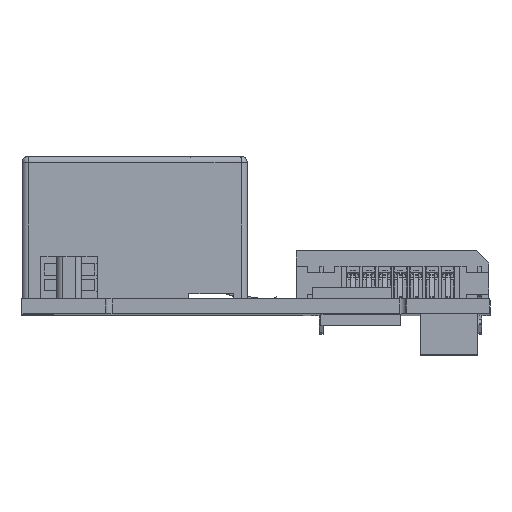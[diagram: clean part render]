
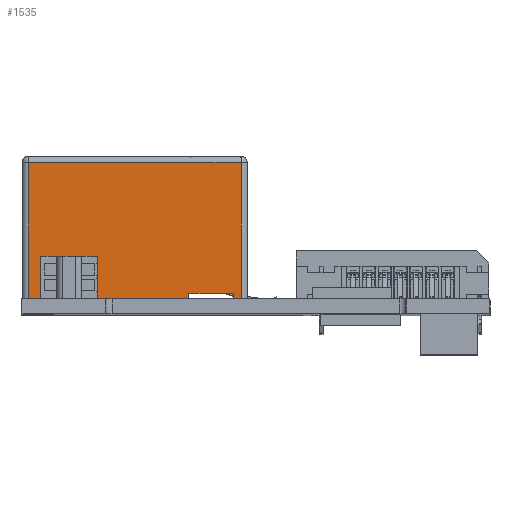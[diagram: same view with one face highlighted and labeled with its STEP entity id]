
A CAD part, top view. The second image highlights one B-rep face of the part: STEP entity #1535.
In plain terms, the highlighted planar face has unit normal (0, 0, 1).
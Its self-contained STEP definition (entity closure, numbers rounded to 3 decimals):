
#1535=ADVANCED_FACE('',(#4398),#26186,.T.);
#4398=FACE_OUTER_BOUND('',#7554,.F.);
#7554=EDGE_LOOP('',(#16623,#16624,#16625,#16626,#16627,#16628,#16629,#16630));
#16623=ORIENTED_EDGE('',*,*,#28491,.F.);
#16624=ORIENTED_EDGE('',*,*,#32687,.T.);
#16625=ORIENTED_EDGE('',*,*,#32688,.T.);
#16626=ORIENTED_EDGE('',*,*,#32689,.T.);
#16627=ORIENTED_EDGE('',*,*,#28490,.F.);
#16628=ORIENTED_EDGE('',*,*,#32686,.T.);
#16629=ORIENTED_EDGE('',*,*,#31792,.T.);
#16630=ORIENTED_EDGE('',*,*,#31790,.F.);
#26186=PLANE('',#57724);
#28490=EDGE_CURVE('',#55871,#55870,#36403,.T.);
#28491=EDGE_CURVE('',#55869,#55878,#36404,.T.);
#31790=EDGE_CURVE('',#55878,#53720,#39303,.T.);
#31792=EDGE_CURVE('',#53710,#53720,#39305,.T.);
#32686=EDGE_CURVE('',#55871,#53710,#40050,.T.);
#32687=EDGE_CURVE('',#55869,#53115,#40051,.T.);
#32688=EDGE_CURVE('',#53115,#53114,#40052,.T.);
#32689=EDGE_CURVE('',#53114,#55870,#40053,.T.);
#36403=LINE('',#78735,#43702);
#36404=LINE('',#78736,#43703);
#39303=LINE('',#82107,#46602);
#39305=LINE('',#82109,#46604);
#40050=LINE('',#83003,#47349);
#40051=LINE('',#83004,#47350);
#40052=LINE('',#83005,#47351);
#40053=LINE('',#83006,#47352);
#43702=VECTOR('',#59493,0.605);
#43703=VECTOR('',#59494,12.9);
#46602=VECTOR('',#63175,0.5);
#46604=VECTOR('',#63177,3.595);
#47349=VECTOR('',#64220,0.5);
#47350=VECTOR('',#64221,11.);
#47351=VECTOR('',#64222,17.1);
#47352=VECTOR('',#64223,11.);
#53114=VERTEX_POINT('',#75830);
#53115=VERTEX_POINT('',#75831);
#53710=VERTEX_POINT('',#76426);
#53720=VERTEX_POINT('',#76436);
#55869=VERTEX_POINT('',#78585);
#55870=VERTEX_POINT('',#78586);
#55871=VERTEX_POINT('',#78587);
#55878=VERTEX_POINT('',#78594);
#57724=AXIS2_PLACEMENT_3D('',#87881,#70266,#70267);
#59493=DIRECTION('',(1.,0.,0.));
#59494=DIRECTION('',(1.,0.,0.));
#63175=DIRECTION('',(0.,1.,0.));
#63177=DIRECTION('',(-1.,0.,0.));
#64220=DIRECTION('',(0.,1.,0.));
#64221=DIRECTION('',(0.,1.,0.));
#64222=DIRECTION('',(1.,0.,0.));
#64223=DIRECTION('',(0.,-1.,0.));
#70266=DIRECTION('',(0.,0.,1.));
#70267=DIRECTION('',(0.,1.,0.));
#75830=CARTESIAN_POINT('',(3.554,13.704,-19.172));
#75831=CARTESIAN_POINT('',(-13.546,13.704,-19.172));
#76426=CARTESIAN_POINT('',(2.949,3.204,-19.172));
#76436=CARTESIAN_POINT('',(-0.646,3.204,-19.172));
#78585=CARTESIAN_POINT('',(-13.546,2.704,-19.172));
#78586=CARTESIAN_POINT('',(3.554,2.704,-19.172));
#78587=CARTESIAN_POINT('',(2.949,2.704,-19.172));
#78594=CARTESIAN_POINT('',(-0.646,2.704,-19.172));
#78735=CARTESIAN_POINT('',(2.949,2.704,-19.172));
#78736=CARTESIAN_POINT('',(-13.546,2.704,-19.172));
#82107=CARTESIAN_POINT('',(-0.646,2.704,-19.172));
#82109=CARTESIAN_POINT('',(2.949,3.204,-19.172));
#83003=CARTESIAN_POINT('',(2.949,2.704,-19.172));
#83004=CARTESIAN_POINT('',(-13.546,2.704,-19.172));
#83005=CARTESIAN_POINT('',(-13.546,13.704,-19.172));
#83006=CARTESIAN_POINT('',(3.554,13.704,-19.172));
#87881=CARTESIAN_POINT('',(4.409,1.849,-19.172));
